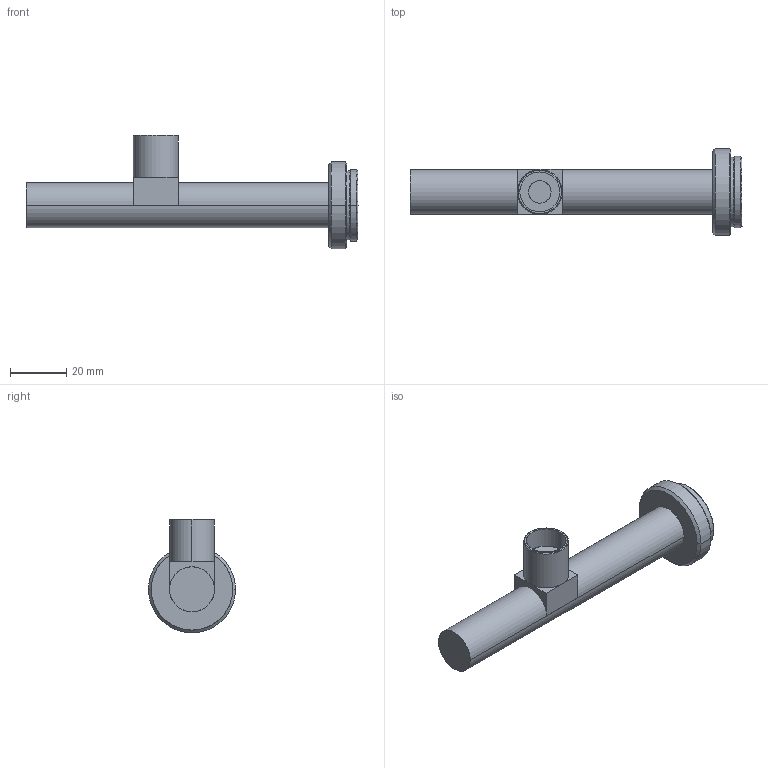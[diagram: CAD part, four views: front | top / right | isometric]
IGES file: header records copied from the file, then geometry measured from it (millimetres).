
Start section: SolidWorks IGES file using analytic representation for surfaces
Global section: file name: C:\Documents and Settings\a-3DCAD2\デスクトップ\VS-TC6-110CO-LD.IGS; native system: SolidWorks 2010; preprocessor: SolidWorks 2010; author: a-3DCAD2; date: 111125.142215; units: millimetre
Bounding box: 118.2 x 31 x 40.5 mm (x, y, z)
Surface area: 10532.5 mm2 (no closed solid volume)
Topology: 0 solids, 0 shells, 37 faces, 568 edges, 568 vertices
Faces by surface type: revolution 24, bspline 13
